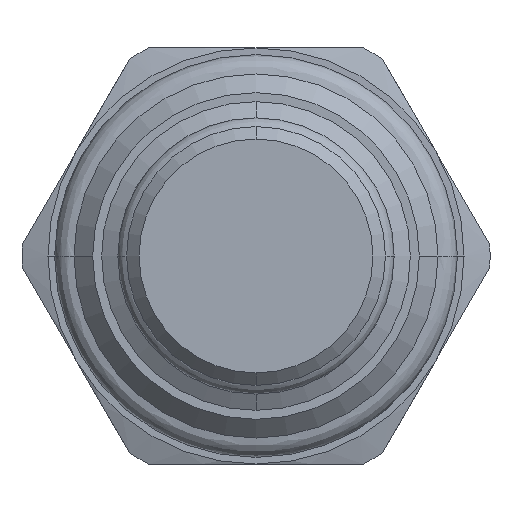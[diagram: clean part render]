
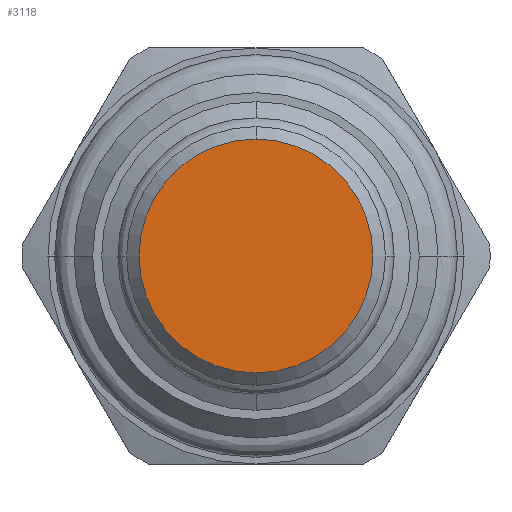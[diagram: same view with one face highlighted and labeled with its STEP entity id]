
A CAD part, front view. The second image highlights one B-rep face of the part: STEP entity #3118.
In plain terms, the highlighted planar face has unit normal (0, -1, 0).
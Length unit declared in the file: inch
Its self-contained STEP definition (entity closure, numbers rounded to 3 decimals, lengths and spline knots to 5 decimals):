
#1138=CARTESIAN_POINT('',(0.,-1.253,0.));
#1139=DIRECTION('',(0.,1.,0.));
#1140=DIRECTION('',(0.,0.,1.));
#1141=AXIS2_PLACEMENT_3D('',#1138,#1139,#1140);
#1148=CARTESIAN_POINT('',(0.,-1.253,0.));
#1149=DIRECTION('',(0.,1.,0.));
#1150=DIRECTION('',(0.,0.,-1.));
#1151=AXIS2_PLACEMENT_3D('',#1148,#1149,#1150);
#1301=CARTESIAN_POINT('',(0.,-1.253,0.281));
#1302=CARTESIAN_POINT('',(0.,-1.253,-0.281));
#1303=VERTEX_POINT('',#1301);
#1304=VERTEX_POINT('',#1302);
#3108=CARTESIAN_POINT('',(0.,-1.253,0.));
#3109=DIRECTION('',(0.,-1.,0.));
#3110=DIRECTION('',(0.,0.,1.));
#3111=AXIS2_PLACEMENT_3D('',#3108,#3109,#3110);
#3112=PLANE('',#3111);
#3114=ORIENTED_EDGE('',*,*,#3113,.T.);
#3115=ORIENTED_EDGE('',*,*,#3098,.T.);
#3116=EDGE_LOOP('',(#3114,#3115));
#3117=FACE_OUTER_BOUND('',#3116,.F.);
#3118=ADVANCED_FACE('',(#3117),#3112,.T.);
#1142=CIRCLE('',#1141,0.281);
#1152=CIRCLE('',#1151,0.281);
#3098=EDGE_CURVE('',#1303,#1304,#1142,.T.);
#3113=EDGE_CURVE('',#1304,#1303,#1152,.T.);
